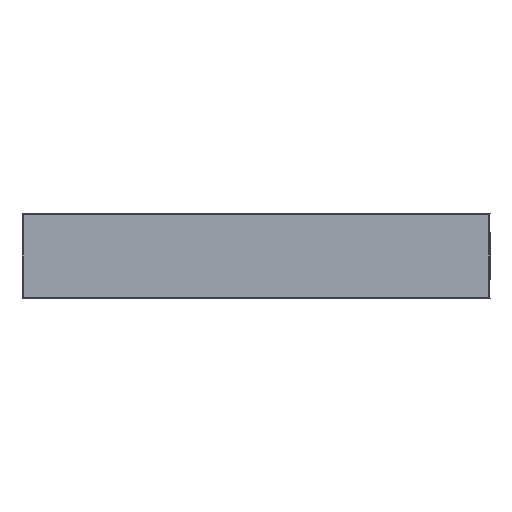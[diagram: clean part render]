
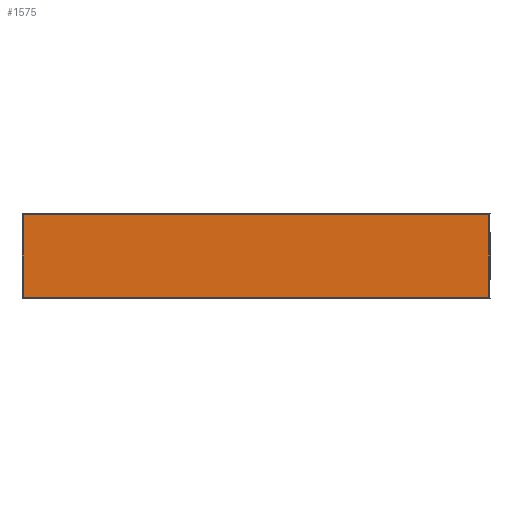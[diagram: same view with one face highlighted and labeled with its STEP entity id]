
A CAD part, left-side view. The second image highlights one B-rep face of the part: STEP entity #1575.
In plain terms, the highlighted planar face has unit normal (-1, 0, 0).
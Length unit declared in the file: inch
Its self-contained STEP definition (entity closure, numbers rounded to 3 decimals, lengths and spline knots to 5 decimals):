
#133 = EDGE_LOOP ( 'NONE', ( #1831, #1832, #1833, #1834 ) ) ;
#373 = FACE_OUTER_BOUND ( 'NONE', #133, .T. ) ;
#802 = LINE ( 'NONE', #2999, #805 ) ;
#805 = VECTOR ( 'NONE', #3000, 39.37008 ) ;
#1002 = EDGE_CURVE ( 'NONE', #2197, #2180, #1056, .T. ) ;
#1004 = EDGE_CURVE ( 'NONE', #2183, #2178, #1063, .T. ) ;
#1005 = EDGE_CURVE ( 'NONE', #2183, #2197, #1065, .T. ) ;
#1056 = LINE ( 'NONE', #4279, #1064 ) ;
#1063 = LINE ( 'NONE', #4293, #1068 ) ;
#1064 = VECTOR ( 'NONE', #4167, 39.37008 ) ;
#1065 = LINE ( 'NONE', #4223, #1070 ) ;
#1068 = VECTOR ( 'NONE', #4378, 39.37008 ) ;
#1070 = VECTOR ( 'NONE', #4268, 39.37008 ) ;
#1575 = ADVANCED_FACE ( 'NONE', ( #373 ), #2669, .T. ) ;
#1831 = ORIENTED_EDGE ( 'NONE', *, *, #2538, .F. ) ;
#1832 = ORIENTED_EDGE ( 'NONE', *, *, #1004, .F. ) ;
#1833 = ORIENTED_EDGE ( 'NONE', *, *, #1005, .T. ) ;
#1834 = ORIENTED_EDGE ( 'NONE', *, *, #1002, .T. ) ;
#1988 = AXIS2_PLACEMENT_3D ( 'NONE', #2664, #2672, #2673 ) ;
#2178 = VERTEX_POINT ( 'NONE', #2889 ) ;
#2180 = VERTEX_POINT ( 'NONE', #2891 ) ;
#2183 = VERTEX_POINT ( 'NONE', #2893 ) ;
#2197 = VERTEX_POINT ( 'NONE', #2902 ) ;
#2538 = EDGE_CURVE ( 'NONE', #2178, #2180, #802, .T. ) ;
#2664 = CARTESIAN_POINT ( 'NONE',  ( -12., 11.75, -4.25 ) ) ;
#2669 = PLANE ( 'NONE',  #1988 ) ;
#2672 = DIRECTION ( 'NONE',  ( -1., 0., 0. ) ) ;
#2673 = DIRECTION ( 'NONE',  ( 0., -1., 0. ) ) ;
#2889 = CARTESIAN_POINT ( 'NONE',  ( -12., 11.75, 0. ) ) ;
#2891 = CARTESIAN_POINT ( 'NONE',  ( -12., -11.75, 0. ) ) ;
#2893 = CARTESIAN_POINT ( 'NONE',  ( -12., 11.75, -4.25 ) ) ;
#2902 = CARTESIAN_POINT ( 'NONE',  ( -12., -11.75, -4.25 ) ) ;
#2999 = CARTESIAN_POINT ( 'NONE',  ( -12., 11.75, 0. ) ) ;
#3000 = DIRECTION ( 'NONE',  ( 0., -1., 0. ) ) ;
#4167 = DIRECTION ( 'NONE',  ( 0., 0., 1. ) ) ;
#4223 = CARTESIAN_POINT ( 'NONE',  ( -12., 11.75, -4.25 ) ) ;
#4268 = DIRECTION ( 'NONE',  ( 0., -1., 0. ) ) ;
#4279 = CARTESIAN_POINT ( 'NONE',  ( -12., -11.75, -4.25 ) ) ;
#4293 = CARTESIAN_POINT ( 'NONE',  ( -12., 11.75, -4.25 ) ) ;
#4378 = DIRECTION ( 'NONE',  ( 0., 0., 1. ) ) ;
